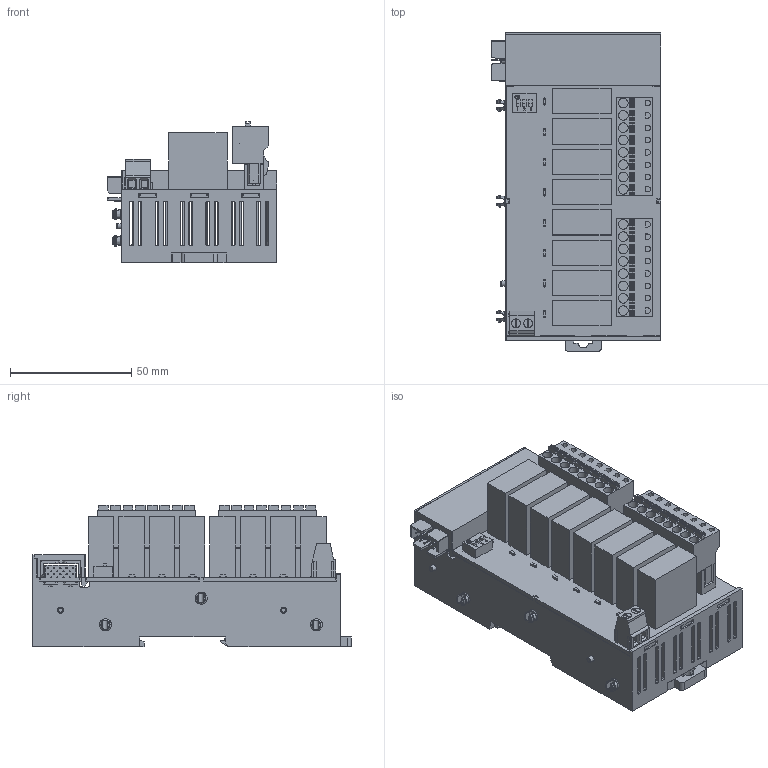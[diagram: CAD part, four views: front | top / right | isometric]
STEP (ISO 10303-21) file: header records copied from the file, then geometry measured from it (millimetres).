
FILE_DESCRIPTION (( 'STEP AP214' ), '1' );
FILE_NAME ('CFDO-8R.STEP', '2024-12-10T08:38:05', ( '' ), ( '' ), 'SwSTEP 2.0', 'SolidWorks 2020', '' );
FILE_SCHEMA (( 'AUTOMOTIVE_DESIGN' ));
Length unit declared in the file: millimetre
Products named in the file (1): CFDO-8R
Bounding box: 70 x 131.42 x 58.3 mm (x, y, z)
Volume: 126816.9 mm3; surface area: 93430.4 mm2
Topology: 1 solids, 3 shells, 2119 faces, 5913 edges, 3860 vertices
Faces by surface type: plane 1457, cylinder 426, cone 141, torus 67, bspline 28
Full cylindrical faces by diameter (mm): 0.5 x40, 1.2 x16, 1.6 x2, 2 x17, 3.6 x18, 4 x16, 4.6 x3, 6 x1, 9 x1
Entity records: 68113 total; most frequent: CARTESIAN_POINT 14524, ORIENTED_EDGE 11280, DIRECTION 10541, EDGE_CURVE 5640, VECTOR 4301, LINE 4301, VERTEX_POINT 3776, AXIS2_PLACEMENT_3D 3120
